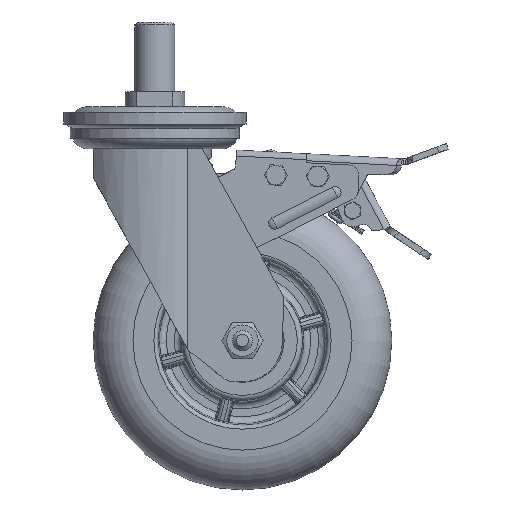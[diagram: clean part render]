
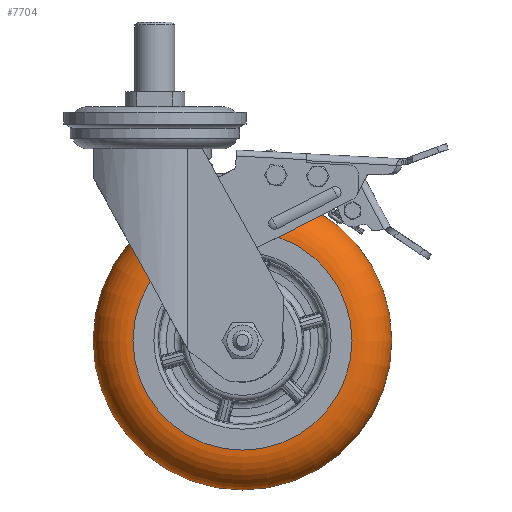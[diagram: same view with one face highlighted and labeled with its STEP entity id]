
A CAD part, front view. The second image highlights one B-rep face of the part: STEP entity #7704.
In plain terms, the highlighted toroidal (fillet/blend) face has major radius 55 mm and minor radius 20 mm.
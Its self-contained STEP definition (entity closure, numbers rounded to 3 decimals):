
#2232=TOROIDAL_SURFACE('',#27258,55.,20.);
#3894=CIRCLE('',#27252,55.);
#3896=CIRCLE('',#27255,75.);
#7704=ADVANCED_FACE('',(#8656,#8657),#2232,.T.);
#8656=FACE_BOUND('',#9971,.T.);
#8657=FACE_BOUND('',#9972,.T.);
#9971=EDGE_LOOP('',(#15326));
#9972=EDGE_LOOP('',(#15327));
#15326=ORIENTED_EDGE('',*,*,#23028,.F.);
#15327=ORIENTED_EDGE('',*,*,#23030,.F.);
#19733=VERTEX_POINT('',#61850);
#19735=VERTEX_POINT('',#61855);
#23028=EDGE_CURVE('',#19733,#19733,#3894,.T.);
#23030=EDGE_CURVE('',#19735,#19735,#3896,.T.);
#27252=AXIS2_PLACEMENT_3D('',#61849,#32287,#32288);
#27255=AXIS2_PLACEMENT_3D('',#61854,#32293,#32294);
#27258=AXIS2_PLACEMENT_3D('',#61858,#32299,#32300);
#32287=DIRECTION('',(0.,-1.,0.));
#32288=DIRECTION('',(0.,0.,1.));
#32293=DIRECTION('',(0.,1.,0.));
#32294=DIRECTION('',(0.,0.,1.));
#32299=DIRECTION('',(0.,1.,0.));
#32300=DIRECTION('',(0.,0.,-1.));
#61849=CARTESIAN_POINT('',(44.,-25.5,-160.));
#61850=CARTESIAN_POINT('',(44.,-25.5,-105.));
#61854=CARTESIAN_POINT('',(44.,-5.5,-160.));
#61855=CARTESIAN_POINT('',(44.,-5.5,-85.));
#61858=CARTESIAN_POINT('',(44.,-5.5,-160.));
